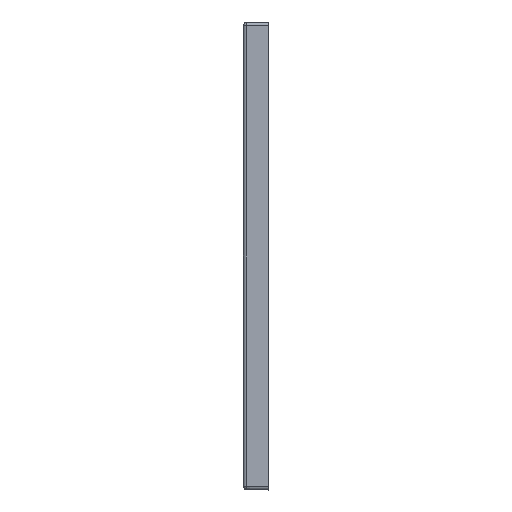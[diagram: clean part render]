
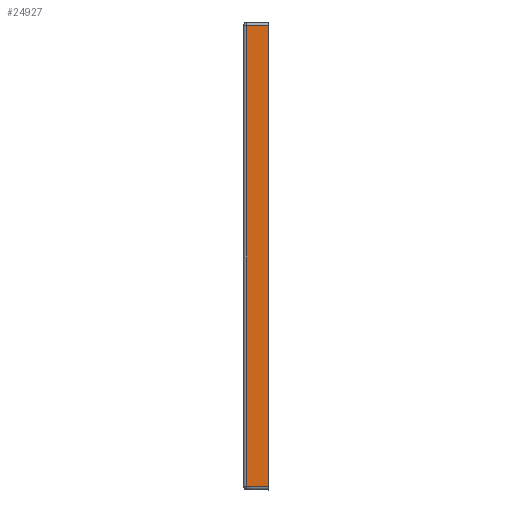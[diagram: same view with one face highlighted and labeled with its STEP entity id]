
A CAD part, left-side view. The second image highlights one B-rep face of the part: STEP entity #24927.
In plain terms, the highlighted planar face has unit normal (-1, 0.018, 0).
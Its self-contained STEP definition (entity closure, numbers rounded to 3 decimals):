
#936 = DIRECTION ( 'NONE',  ( -0.017, -1., 0. ) ) ;
#1621 = VECTOR ( 'NONE', #7610, 1000. ) ;
#2396 = EDGE_CURVE ( 'NONE', #32993, #14621, #35800, .T. ) ;
#2434 = DIRECTION ( 'NONE',  ( 0.017, 1., -0.017 ) ) ;
#3675 = EDGE_CURVE ( 'NONE', #5423, #37704, #6719, .T. ) ;
#5423 = VERTEX_POINT ( 'NONE', #29266 ) ;
#6073 = VECTOR ( 'NONE', #23407, 1000. ) ;
#6450 = CARTESIAN_POINT ( 'NONE',  ( -500.663, -38., -500.664 ) ) ;
#6719 = LINE ( 'NONE', #13543, #10810 ) ;
#6799 = FACE_OUTER_BOUND ( 'NONE', #14626, .T. ) ;
#7610 = DIRECTION ( 'NONE',  ( 0., 0., -1. ) ) ;
#10810 = VECTOR ( 'NONE', #2434, 1000. ) ;
#12059 = LINE ( 'NONE', #38249, #6073 ) ;
#12661 = VECTOR ( 'NONE', #26832, 1000. ) ;
#13543 = CARTESIAN_POINT ( 'NONE',  ( -499.788, 12.124, 189.789 ) ) ;
#14621 = VERTEX_POINT ( 'NONE', #6450 ) ;
#14626 = EDGE_LOOP ( 'NONE', ( #35808, #21638, #26144, #37252 ) ) ;
#14881 = EDGE_CURVE ( 'NONE', #37704, #32993, #16795, .T. ) ;
#16795 = LINE ( 'NONE', #25785, #1621 ) ;
#18514 = DIRECTION ( 'NONE',  ( -1., 0.017, 0. ) ) ;
#21051 = AXIS2_PLACEMENT_3D ( 'NONE', #24574, #18514, #936 ) ;
#21638 = ORIENTED_EDGE ( 'NONE', *, *, #2396, .T. ) ;
#22510 = EDGE_CURVE ( 'NONE', #14621, #5423, #12059, .T. ) ;
#23407 = DIRECTION ( 'NONE',  ( 0., 0., 1. ) ) ;
#23901 = CARTESIAN_POINT ( 'NONE',  ( -500.002, -0.087, -500.002 ) ) ;
#24193 = PLANE ( 'NONE',  #21051 ) ;
#24574 = CARTESIAN_POINT ( 'NONE',  ( -500., 0., -505. ) ) ;
#24927 = ADVANCED_FACE ( 'NONE', ( #6799 ), #24193, .T. ) ;
#25785 = CARTESIAN_POINT ( 'NONE',  ( -500.086, -4.913, -505. ) ) ;
#26144 = ORIENTED_EDGE ( 'NONE', *, *, #22510, .T. ) ;
#26832 = DIRECTION ( 'NONE',  ( -0.017, -1., -0.017 ) ) ;
#29266 = CARTESIAN_POINT ( 'NONE',  ( -500.663, -38., 190.664 ) ) ;
#32711 = CARTESIAN_POINT ( 'NONE',  ( -500.086, -4.913, 190.087 ) ) ;
#32993 = VERTEX_POINT ( 'NONE', #34664 ) ;
#34664 = CARTESIAN_POINT ( 'NONE',  ( -500.086, -4.913, -500.087 ) ) ;
#35800 = LINE ( 'NONE', #23901, #12661 ) ;
#35808 = ORIENTED_EDGE ( 'NONE', *, *, #14881, .T. ) ;
#37252 = ORIENTED_EDGE ( 'NONE', *, *, #3675, .T. ) ;
#37704 = VERTEX_POINT ( 'NONE', #32711 ) ;
#38249 = CARTESIAN_POINT ( 'NONE',  ( -500.663, -38., 195. ) ) ;
